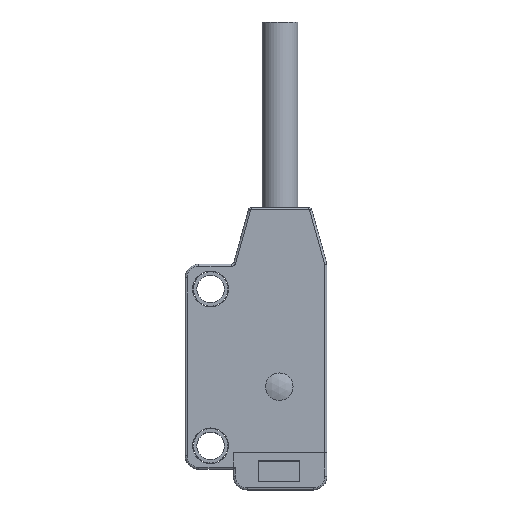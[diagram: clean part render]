
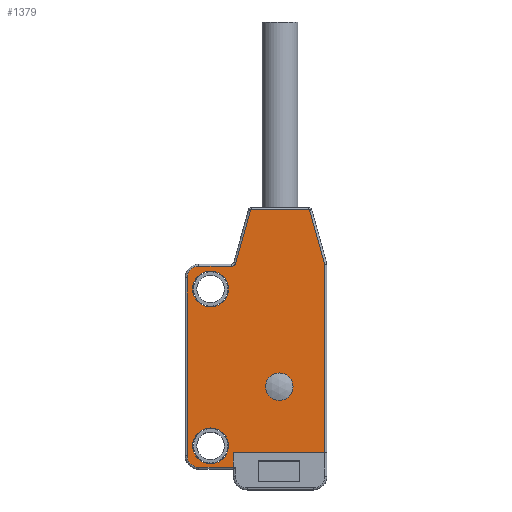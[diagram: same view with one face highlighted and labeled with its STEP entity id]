
A CAD part, top view. The second image highlights one B-rep face of the part: STEP entity #1379.
In plain terms, the highlighted planar face has unit normal (0, 0, 1).
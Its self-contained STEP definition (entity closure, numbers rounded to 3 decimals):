
#84=DIRECTION('',(1.,0.,0.));
#85=VECTOR('',#84,6.65);
#86=CARTESIAN_POINT('',(18.25,-28.2,2.25));
#87=LINE('',#86,#85);
#88=CARTESIAN_POINT('',(15.75,-28.4,2.25));
#89=DIRECTION('',(0.,0.,1.));
#90=DIRECTION('',(-1.,0.,0.));
#91=AXIS2_PLACEMENT_3D('',#88,#89,#90);
#93=CARTESIAN_POINT('',(15.75,-15.5,2.25));
#94=DIRECTION('',(0.,0.,1.));
#95=DIRECTION('',(0.,1.,0.));
#96=AXIS2_PLACEMENT_3D('',#93,#94,#95);
#98=CARTESIAN_POINT('',(18.099,-14.3,2.25));
#99=DIRECTION('',(0.,0.,-1.));
#100=DIRECTION('',(0.963,-0.27,0.));
#101=AXIS2_PLACEMENT_3D('',#98,#99,#100);
#103=DIRECTION('',(-0.27,-0.963,0.));
#104=VECTOR('',#103,3.955);
#105=CARTESIAN_POINT('',(19.504,-10.587,2.25));
#106=LINE('',#105,#104);
#107=CARTESIAN_POINT('',(19.552,-10.6,2.25));
#108=DIRECTION('',(0.,0.,1.));
#109=DIRECTION('',(0.,1.,0.));
#110=AXIS2_PLACEMENT_3D('',#107,#108,#109);
#112=CARTESIAN_POINT('',(23.749,-10.6,2.25));
#113=DIRECTION('',(0.,0.,1.));
#114=DIRECTION('',(0.963,0.27,0.));
#115=AXIS2_PLACEMENT_3D('',#112,#113,#114);
#117=DIRECTION('',(-0.27,0.963,0.));
#118=VECTOR('',#117,4.086);
#119=CARTESIAN_POINT('',(24.9,-14.521,2.25));
#120=LINE('',#119,#118);
#121=CARTESIAN_POINT('',(16.6,-16.3,2.25));
#122=DIRECTION('',(0.,0.,1.));
#123=DIRECTION('',(1.,0.,0.));
#124=AXIS2_PLACEMENT_3D('',#121,#122,#123);
#126=CARTESIAN_POINT('',(16.6,-16.3,2.25));
#127=DIRECTION('',(0.,0.,1.));
#128=DIRECTION('',(-1.,0.,0.));
#129=AXIS2_PLACEMENT_3D('',#126,#127,#128);
#131=CARTESIAN_POINT('',(16.6,-27.7,2.25));
#132=DIRECTION('',(0.,0.,1.));
#133=DIRECTION('',(1.,0.,0.));
#134=AXIS2_PLACEMENT_3D('',#131,#132,#133);
#136=CARTESIAN_POINT('',(16.6,-27.7,2.25));
#137=DIRECTION('',(0.,0.,1.));
#138=DIRECTION('',(-1.,0.,0.));
#139=AXIS2_PLACEMENT_3D('',#136,#137,#138);
#141=CARTESIAN_POINT('',(21.596,-23.4,2.25));
#142=DIRECTION('',(0.,0.,1.));
#143=DIRECTION('',(1.,0.,0.));
#144=AXIS2_PLACEMENT_3D('',#141,#142,#143);
#146=CARTESIAN_POINT('',(21.596,-23.4,2.25));
#147=DIRECTION('',(0.,0.,1.));
#148=DIRECTION('',(-1.,0.,0.));
#149=AXIS2_PLACEMENT_3D('',#146,#147,#148);
#155=DIRECTION('',(0.,-1.,0.));
#156=VECTOR('',#155,13.679);
#157=CARTESIAN_POINT('',(24.9,-14.521,2.25));
#158=LINE('',#157,#156);
#520=DIRECTION('',(1.,0.,0.));
#521=VECTOR('',#520,4.197);
#522=CARTESIAN_POINT('',(19.552,-10.55,2.25));
#523=LINE('',#522,#521);
#562=DIRECTION('',(1.,0.,0.));
#563=VECTOR('',#562,2.348);
#564=CARTESIAN_POINT('',(15.75,-14.65,2.25));
#565=LINE('',#564,#563);
#585=DIRECTION('',(0.,1.,0.));
#586=VECTOR('',#585,12.9);
#587=CARTESIAN_POINT('',(14.9,-28.4,2.25));
#588=LINE('',#587,#586);
#608=DIRECTION('',(-1.,0.,0.));
#609=VECTOR('',#608,2.5);
#610=CARTESIAN_POINT('',(18.25,-29.25,2.25));
#611=LINE('',#610,#609);
#633=DIRECTION('',(0.,-1.,0.));
#634=VECTOR('',#633,1.05);
#635=CARTESIAN_POINT('',(18.25,-28.2,2.25));
#636=LINE('',#635,#634);
#927=CARTESIAN_POINT('',(24.9,-14.521,2.25));
#928=CARTESIAN_POINT('',(24.9,-28.2,2.25));
#929=VERTEX_POINT('',#927);
#930=VERTEX_POINT('',#928);
#931=CARTESIAN_POINT('',(23.797,-10.587,2.25));
#932=VERTEX_POINT('',#931);
#933=CARTESIAN_POINT('',(23.749,-10.55,2.25));
#934=VERTEX_POINT('',#933);
#935=CARTESIAN_POINT('',(19.552,-10.55,2.25));
#936=VERTEX_POINT('',#935);
#937=CARTESIAN_POINT('',(19.504,-10.587,2.25));
#938=VERTEX_POINT('',#937);
#939=CARTESIAN_POINT('',(18.436,-14.395,2.25));
#940=VERTEX_POINT('',#939);
#941=CARTESIAN_POINT('',(18.099,-14.65,2.25));
#942=VERTEX_POINT('',#941);
#943=CARTESIAN_POINT('',(15.75,-14.65,2.25));
#944=VERTEX_POINT('',#943);
#945=CARTESIAN_POINT('',(14.9,-15.5,2.25));
#946=VERTEX_POINT('',#945);
#947=CARTESIAN_POINT('',(14.9,-28.4,2.25));
#948=VERTEX_POINT('',#947);
#949=CARTESIAN_POINT('',(15.75,-29.25,2.25));
#950=VERTEX_POINT('',#949);
#951=CARTESIAN_POINT('',(18.25,-29.25,2.25));
#952=VERTEX_POINT('',#951);
#953=CARTESIAN_POINT('',(18.25,-28.2,2.25));
#954=VERTEX_POINT('',#953);
#956=CARTESIAN_POINT('',(15.3,-27.7,2.25));
#958=VERTEX_POINT('',#956);
#960=CARTESIAN_POINT('',(17.9,-27.7,2.25));
#962=VERTEX_POINT('',#960);
#1043=CARTESIAN_POINT('',(15.3,-16.3,2.25));
#1044=VERTEX_POINT('',#1043);
#1045=CARTESIAN_POINT('',(17.9,-16.3,2.25));
#1046=VERTEX_POINT('',#1045);
#1147=CARTESIAN_POINT('',(22.596,-23.4,2.25));
#1148=VERTEX_POINT('',#1147);
#1149=CARTESIAN_POINT('',(20.596,-23.4,2.25));
#1150=VERTEX_POINT('',#1149);
#1327=CARTESIAN_POINT('',(19.9,-19.9,2.25));
#1328=DIRECTION('',(0.,0.,-1.));
#1329=DIRECTION('',(0.,-1.,0.));
#1330=AXIS2_PLACEMENT_3D('',#1327,#1328,#1329);
#1331=PLANE('',#1330);
#1333=ORIENTED_EDGE('',*,*,#1332,.T.);
#1335=ORIENTED_EDGE('',*,*,#1334,.F.);
#1337=ORIENTED_EDGE('',*,*,#1336,.T.);
#1339=ORIENTED_EDGE('',*,*,#1338,.T.);
#1341=ORIENTED_EDGE('',*,*,#1340,.F.);
#1343=ORIENTED_EDGE('',*,*,#1342,.T.);
#1345=ORIENTED_EDGE('',*,*,#1344,.F.);
#1347=ORIENTED_EDGE('',*,*,#1346,.T.);
#1349=ORIENTED_EDGE('',*,*,#1348,.F.);
#1351=ORIENTED_EDGE('',*,*,#1350,.F.);
#1353=ORIENTED_EDGE('',*,*,#1352,.F.);
#1355=ORIENTED_EDGE('',*,*,#1354,.T.);
#1357=ORIENTED_EDGE('',*,*,#1356,.F.);
#1358=ORIENTED_EDGE('',*,*,#1319,.F.);
#1359=EDGE_LOOP('',(#1333,#1335,#1337,#1339,#1341,#1343,#1345,#1347,#1349,#1351,
#1353,#1355,#1357,#1358));
#1360=FACE_OUTER_BOUND('',#1359,.F.);
#1362=ORIENTED_EDGE('',*,*,#1361,.T.);
#1364=ORIENTED_EDGE('',*,*,#1363,.T.);
#1365=EDGE_LOOP('',(#1362,#1364));
#1366=FACE_BOUND('',#1365,.F.);
#1368=ORIENTED_EDGE('',*,*,#1367,.T.);
#1370=ORIENTED_EDGE('',*,*,#1369,.T.);
#1371=EDGE_LOOP('',(#1368,#1370));
#1372=FACE_BOUND('',#1371,.F.);
#1374=ORIENTED_EDGE('',*,*,#1373,.T.);
#1376=ORIENTED_EDGE('',*,*,#1375,.T.);
#1377=EDGE_LOOP('',(#1374,#1376));
#1378=FACE_BOUND('',#1377,.F.);
#1379=ADVANCED_FACE('',(#1360,#1366,#1372,#1378),#1331,.F.);
#92=CIRCLE('',#91,0.85);
#97=CIRCLE('',#96,0.85);
#102=CIRCLE('',#101,0.35);
#111=CIRCLE('',#110,0.05);
#116=CIRCLE('',#115,0.05);
#125=CIRCLE('',#124,1.3);
#130=CIRCLE('',#129,1.3);
#135=CIRCLE('',#134,1.3);
#140=CIRCLE('',#139,1.3);
#145=CIRCLE('',#144,1.);
#150=CIRCLE('',#149,1.);
#1319=EDGE_CURVE('',#929,#932,#120,.T.);
#1332=EDGE_CURVE('',#929,#930,#158,.T.);
#1334=EDGE_CURVE('',#954,#930,#87,.T.);
#1336=EDGE_CURVE('',#954,#952,#636,.T.);
#1338=EDGE_CURVE('',#952,#950,#611,.T.);
#1340=EDGE_CURVE('',#948,#950,#92,.T.);
#1342=EDGE_CURVE('',#948,#946,#588,.T.);
#1344=EDGE_CURVE('',#944,#946,#97,.T.);
#1346=EDGE_CURVE('',#944,#942,#565,.T.);
#1348=EDGE_CURVE('',#940,#942,#102,.T.);
#1350=EDGE_CURVE('',#938,#940,#106,.T.);
#1352=EDGE_CURVE('',#936,#938,#111,.T.);
#1354=EDGE_CURVE('',#936,#934,#523,.T.);
#1356=EDGE_CURVE('',#932,#934,#116,.T.);
#1361=EDGE_CURVE('',#1046,#1044,#125,.T.);
#1363=EDGE_CURVE('',#1044,#1046,#130,.T.);
#1367=EDGE_CURVE('',#962,#958,#135,.T.);
#1369=EDGE_CURVE('',#958,#962,#140,.T.);
#1373=EDGE_CURVE('',#1148,#1150,#145,.T.);
#1375=EDGE_CURVE('',#1150,#1148,#150,.T.);
